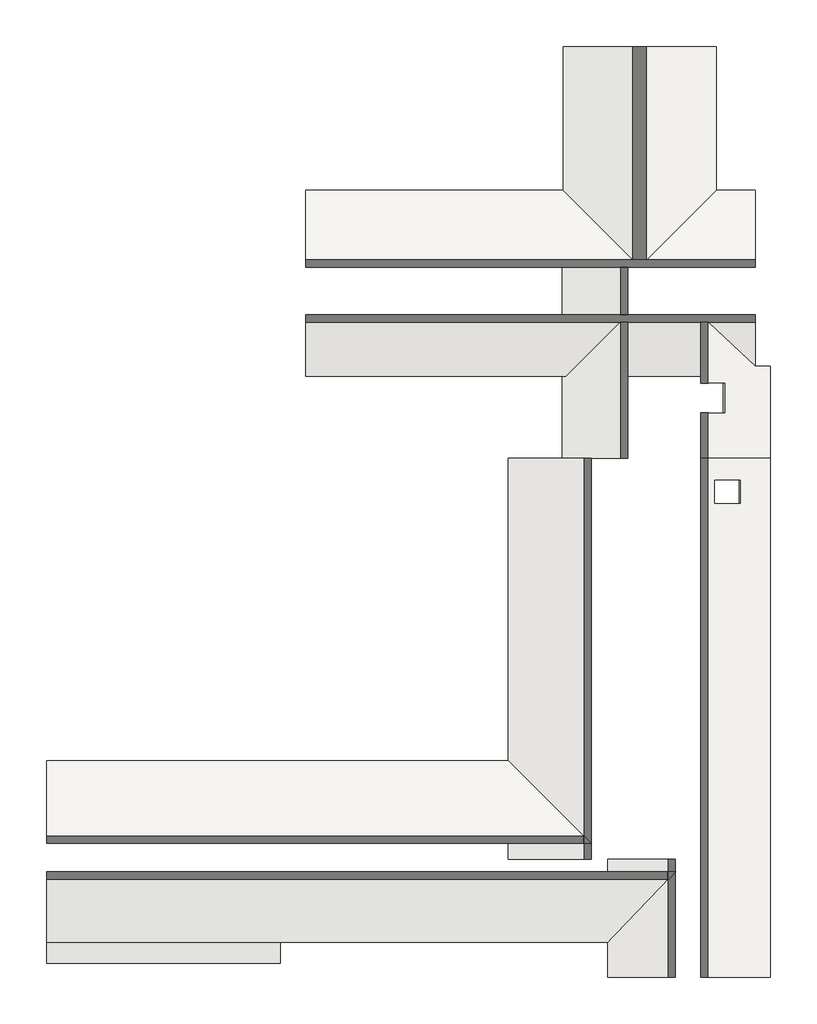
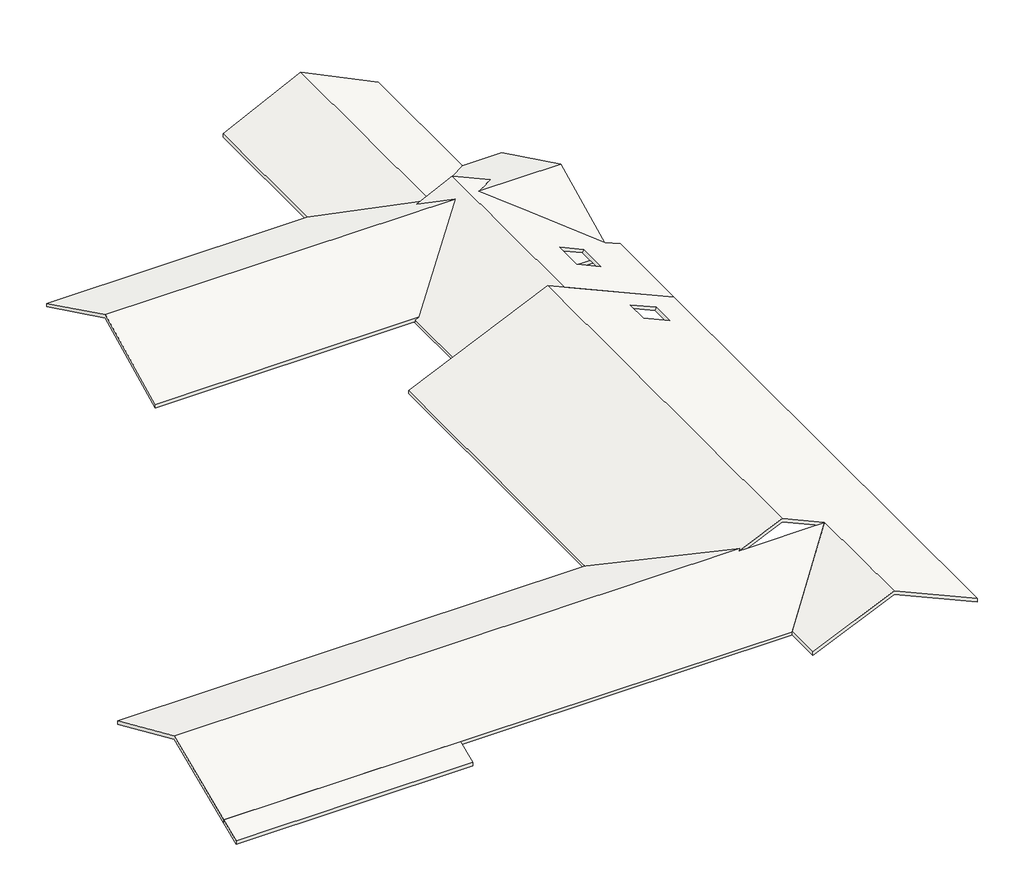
# One storey: 6 roofs.
"""IFC4 building model written with IfcOpenShell, lengths in millimetres."""

from ifc_helpers import new_model, si_unit, frame, origin, place, context, project, spatial, polyline, outline, extrude, faceted_brep, element, save

model = new_model("IFC4")

# Units and contexts
model_context = context("Model", 3, world=origin())
ifc_project = project(units=[si_unit("LENGTHUNIT", "METRE", prefix="MILLI")], contexts=[model_context])

# Site, building, storey
site = spatial("IfcSite", under=ifc_project)
building = spatial("IfcBuilding", under=site)
storey = spatial("IfcBuildingStorey", under=building, Name="U/S of Level 2", Elevation=2565.4)

# Roofs
placement = place(None, origin())
element("IfcRoof", 1, ObjectType="Planitar Roof - 5\"", at=placement, inside=storey, context=model_context, shape_type="Brep", body=[
    faceted_brep([(-11788.9656992, -6572.6284838, 4010.0129354), (-11788.9656992, -2718.3747068, 2293.9885934), (6632.586097, -2718.3747068, 2293.9885934), (10486.8398739, -6572.6284838, 4010.0129354), (-11788.9656992, -2718.3747068, 2433.0074008), (-11788.9656992, -6571.5092012, 4148.533406), (10485.7205913, -6571.5092012, 4148.533406), (6632.586097, -2718.3747068, 2433.0074008), (10594.7843008, -9963.7247068, 2565.4), (-11788.9656992, -9963.7247068, 2565.4), (10560.061097, -6645.8497068, 3978.820566), (13792.3189869, -6645.8497068, 3978.820566), (-11788.9656992, -9963.7247068, 2703.4436543), (10594.7843008, -9963.7247068, 2703.4436543), (13792.3189869, -6645.8497068, 4116.8642203), (10560.061097, -6645.8497068, 4116.8642203)], [[[0, 1, 2, 3]], [[4, 5, 6, 7]], [[1, 4, 7, 2]], [[8, 9, 0, 3, 10, 11]], [[12, 13, 14, 15, 6, 5]], [[8, 13, 12, 9]], [[12, 5, 4, 1, 0, 9]], [[15, 14, 11, 10]], [[14, 13, 8, 11]], [[7, 6, 15, 10, 3, 2]]]),
])
element("IfcRoof", 2, ObjectType="Planitar Roof - 5\"", at=placement, inside=storey, context=model_context, shape_type="Brep", body=[
    faceted_brep([(6632.3843008, -6645.8497068, 2293.9885934), (6632.3843008, 9340.2752932, 2293.9885934), (12115.9189869, 9340.2752932, 4735.4155326), (12115.9189869, -6645.8497068, 4735.4155326), (10594.7843008, -6645.8497068, 4058.1627361), (17078.1343008, 9340.2752932, 2526.0949322), (17078.1343008, -11367.0747068, 2526.0949322), (13792.3189869, -11367.0747068, 3989.0341645), (13792.3189869, -6645.8497068, 3989.0341645), (13636.1983101, -6645.8497068, 4058.5435682), (14807.9554934, 8456.7752932, 3536.843658), (14807.9554934, 7542.3752932, 3536.843658), (15828.9338969, 7542.3752932, 3082.2747857), (15828.9338969, 8456.7752932, 3082.2747857), (6632.3843008, 9340.2752932, 2433.0074008), (6632.3843008, -6645.8497068, 2433.0074008), (10594.7843008, -6645.8497068, 4197.1815435), (12115.9189869, -6645.8497068, 4874.4343399), (12115.9189869, 9340.2752932, 4874.4343399), (17078.1343008, 9340.2752932, 2665.1137395), (13792.3189869, -6645.8497068, 4128.0529719), (13792.3189869, -11367.0747068, 4128.0529719), (17078.1343008, -11367.0747068, 2665.1137395), (14859.6110471, 7542.3752932, 3652.8639311), (14859.6110471, 8456.7752932, 3652.8639311), (15880.5894506, 8456.7752932, 3198.2950588), (15880.5894506, 7542.3752932, 3198.2950588), (10594.7843008, -11367.0747068, 2565.4), (10594.7843008, -6645.8497068, 2565.4), (10594.7843008, -6645.8497068, 2704.4188074), (10594.7843008, -11367.0747068, 2704.4188074)], [[[0, 1, 2, 3, 4]], [[5, 6, 7, 8, 9, 3, 2], [10, 11, 12, 13]], [[14, 15, 16, 17, 18]], [[19, 18, 17, 20, 21, 22], [23, 24, 25, 26]], [[0, 15, 14, 1]], [[5, 19, 22, 6]], [[14, 18, 19, 5, 2, 1]], [[23, 11, 10, 24]], [[11, 23, 26, 12]], [[12, 26, 25, 13]], [[24, 10, 13, 25]], [[27, 28, 8, 7]], [[29, 30, 21, 20, 9]], [[27, 30, 29, 28]], [[29, 9, 8, 28]], [[22, 21, 30, 27, 7, 6]], [[9, 20, 17, 16, 15, 0, 4, 3]]]),
])
element("IfcRoof", 3, ObjectType="Planitar Roof - 5\"", at=placement, inside=storey, context=model_context, shape_type="Brep", body=[
    faceted_brep([(12770.4477297, 16969.8002932, 4444.0005609), (12770.4477297, 9340.2752932, 4444.0005609), (8785.0343008, 9340.2752932, 2500.1845527), (8785.0343008, 16969.8002932, 2500.1845527), (11366.6707828, 16969.8002932, 3759.3327969), (12328.6957828, 16007.7752932, 4228.5437404), (8918.7457828, 12597.8252932, 2565.4), (9208.454631, 12597.8252932, 2706.7004464), (12618.404631, 16007.7752932, 4369.8441868), (11656.379631, 16969.8002932, 3900.6332433), (13990.8707068, 16969.8002932, 3900.6332433), (12937.005673, 16007.7752932, 4369.8441868), (16468.5343008, 12784.004963, 2797.5063387), (16468.5343008, 13001.730346, 2797.5063387), (17078.1343008, 13001.730346, 2526.0949322), (17078.1343008, 9340.2752932, 2526.0949322), (14253.4313065, 12324.7752932, 3783.7337327), (14253.4313065, 11156.3752932, 3783.7337327), (15204.7975461, 11156.3752932, 3360.1581926), (15204.7975461, 12324.7752932, 3360.1581926), (8785.0343008, 9340.2752932, 2641.4849992), (12768.0021415, 9340.2752932, 4584.1082143), (12768.0021415, 16969.8002932, 4584.1082143), (11366.6707828, 16969.8002932, 3900.6332433), (12328.6957828, 16007.7752932, 4369.8441868), (8918.7457828, 12597.8252932, 2706.7004464), (8785.0343008, 12597.8252932, 2641.4849992), (8785.0343008, 16969.8002932, 2641.4849992), (8785.0343008, 12753.8226593, 2641.4849992), (12038.9869347, 16007.7752932, 4228.5437404), (11076.9619347, 16969.8002932, 3759.3327969), (17078.1343008, 9340.2752932, 2665.1137395), (17078.1343008, 13001.730346, 2665.1137395), (16468.4291021, 13001.730346, 2936.5719835), (14048.3127427, 15278.3448909, 4014.0772085), (13249.2470266, 16007.7752932, 4369.8441868), (13577.1218429, 16307.0771583, 4223.8649134), (14250.7218874, 16969.8002932, 3923.9588512), (14305.0868602, 11156.3752932, 3899.7540058), (14305.0868602, 12324.7752932, 3899.7540058), (15256.4530998, 12324.7752932, 3476.1784657), (15256.4530998, 11156.3752932, 3476.1784657), (8785.0343008, 12597.8252932, 2565.4), (14240.3366577, 16969.8002932, 3900.6332433), (16468.5343008, 13001.730346, 2903.6981034), (16453.7927077, 13001.730346, 2903.6981034)], [[[0, 1, 2, 3, 4, 5, 6, 7, 8, 9]], [[1, 0, 10, 11, 12, 13, 14, 15], [16, 17, 18, 19]], [[20, 21, 22, 23, 24, 25, 26]], [[27, 28, 29, 30]], [[22, 21, 31, 32, 33, 34, 35, 36, 37], [38, 39, 40, 41]], [[27, 3, 2, 20, 26, 42, 28]], [[31, 15, 14, 32]], [[3, 27, 30, 4]], [[22, 37, 43, 10, 0, 9, 23]], [[2, 1, 15, 31, 21, 20]], [[37, 36, 43]], [[33, 32, 14, 13, 44, 45]], [[34, 33, 45]], [[38, 17, 16, 39]], [[17, 38, 41, 18]], [[18, 41, 40, 19]], [[39, 16, 19, 40]], [[29, 5, 4, 30]], [[5, 29, 28, 42, 6]], [[8, 24, 23, 9]], [[35, 11, 10, 43, 36]], [[24, 8, 7, 25]], [[11, 35, 34, 45, 44, 12]], [[25, 7, 6, 42, 26]], [[12, 44, 13]]]),
])
element("IfcRoof", 4, ObjectType="Planitar Roof - 5\"", at=placement, inside=storey, context=model_context, shape_type="SweptSolid", body=[
    extrude(outline(polyline([(-10808.4863028, 2342.9817722), (-9963.7247068, 2702.8516929), (-9963.7247068, 2564.8080386), (-10808.4863028, 2204.9381179), (-10808.4863028, 2342.9817722)])), frame((-11788.9656992, 0.0, 0.0), z_axis=(1.0, 0.0, 0.0), x_axis=(0.0, 1.0, 0.0)), (0.0, 0.0, 1.0), 9315.45),
])
element("IfcRoof", 5, ObjectType="Planitar Roof - 5\"", at=placement, inside=storey, context=model_context, shape_type="Brep", body=[
    faceted_brep([(16468.5343008, 20027.3252932, 2268.078214), (16468.5343008, 16007.7752932, 4228.5437404), (12328.6957828, 16007.7752932, 4228.5437404), (12038.9869347, 16007.7752932, 4228.5437404), (-1451.1656992, 16007.7752932, 4228.5437404), (-1451.1656992, 20027.3252932, 2268.078214), (13732.137164, 16914.1272141, 3786.4863718), (12132.0585416, 16914.1272141, 3786.4863718), (12931.5843008, 16115.0058067, 4176.2439245), (16468.5343008, 12597.8252932, 2565.4), (8918.7457828, 12597.8252932, 2565.4), (8785.0343008, 12597.8252932, 2565.4), (-1451.1656992, 12597.8252932, 2565.4), (16468.5343008, 20027.3252932, 2409.3786605), (-1451.1656992, 20027.3252932, 2409.3786605), (-1451.1656992, 16007.7752932, 4369.8441868), (12328.6957828, 16007.7752932, 4369.8441868), (12618.404631, 16007.7752932, 4369.8441868), (12937.005673, 16007.7752932, 4369.8441868), (13249.2470266, 16007.7752932, 4369.8441868), (16468.5343008, 16007.7752932, 4369.8441868), (12132.0585416, 16969.8003498, 3900.6332157), (13732.137164, 16969.8003498, 3900.6332157), (12931.5843008, 16170.6789423, 4290.3907684), (-1451.1656992, 12597.8252932, 2706.7004464), (8918.7457828, 12597.8252932, 2706.7004464), (9208.454631, 12597.8252932, 2706.7004464), (16468.5343008, 12597.8252932, 2706.7004464), (16468.5343008, 12784.004963, 2797.5063387), (16468.5343008, 13001.730346, 2903.6981034)], [[[0, 1, 2, 3, 4, 5], [6, 7, 8]], [[4, 3, 2, 1, 9, 10, 11, 12]], [[13, 14, 15, 16, 17, 18, 19, 20], [21, 22, 23]], [[20, 19, 18, 17, 16, 15, 24, 25, 26, 27, 28, 29]], [[14, 13, 0, 5]], [[27, 26, 25, 24, 12, 11, 10, 9]], [[1, 0, 13, 20, 29, 28, 27, 9]], [[5, 4, 12, 24, 15, 14]], [[6, 22, 21, 7]], [[22, 6, 8, 23]], [[23, 8, 7, 21]]]),
])
element("IfcRoof", 6, ObjectType="Planitar Roof - 5\"", at=placement, inside=storey, context=model_context, shape_type="Brep", body=[
    faceted_brep([(8810.4343008, 20027.3252932, 2268.078214), (8810.4343008, 25755.0252932, 2268.078214), (11867.9593008, 25755.0252932, 3759.3327969), (11867.9593008, 17259.5091413, 3759.3327969), (9100.1431489, 20027.3252932, 2409.3786605), (14925.4843008, 25755.0252932, 2268.078214), (14925.4843008, 20027.3252932, 2268.078214), (14635.7754526, 20027.3252932, 2409.3786605), (8810.4343008, 25755.0252932, 2409.3786605), (8810.4343008, 20027.3252932, 2409.3786605), (11867.9593008, 16969.8002932, 3900.6332433), (11867.9593008, 25755.0252932, 3900.6332433), (14925.4843008, 25755.0252932, 2409.3786605), (14925.4843008, 20027.3252932, 2409.3786605)], [[[0, 1, 2, 3, 4]], [[2, 5, 6, 7, 3]], [[8, 9, 10, 11]], [[12, 11, 10, 13]], [[0, 9, 8, 1]], [[5, 12, 13, 6]], [[8, 11, 12, 5, 2, 1]], [[13, 10, 9, 4, 3, 7]], [[7, 6, 13]], [[9, 0, 4]]]),
])

save(model, "model.ifc")
